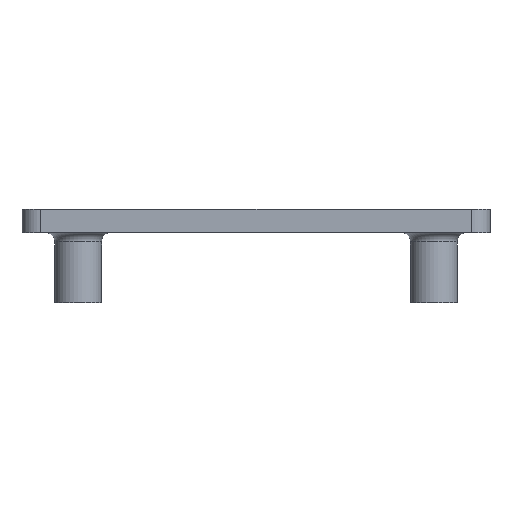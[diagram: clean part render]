
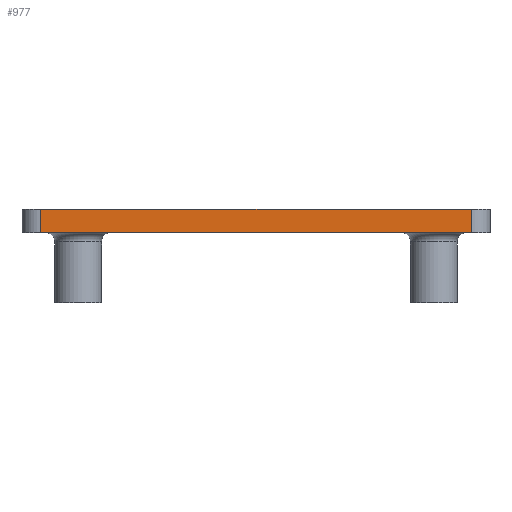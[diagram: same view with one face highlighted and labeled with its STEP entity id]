
A CAD part, front view. The second image highlights one B-rep face of the part: STEP entity #977.
In plain terms, the highlighted planar face has unit normal (0, -1, 0).
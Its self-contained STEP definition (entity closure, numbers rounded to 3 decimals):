
#22 = VERTEX_POINT('',#23);
#23 = CARTESIAN_POINT('',(-46.,-40.,15.));
#33 = PLANE('',#34);
#34 = AXIS2_PLACEMENT_3D('',#35,#36,#37);
#35 = CARTESIAN_POINT('',(0.,0.,15.));
#36 = DIRECTION('',(0.,0.,1.));
#37 = DIRECTION('',(1.,0.,-0.));
#49 = CYLINDRICAL_SURFACE('',#50,4.);
#50 = AXIS2_PLACEMENT_3D('',#51,#52,#53);
#51 = CARTESIAN_POINT('',(-46.,-36.,15.));
#52 = DIRECTION('',(0.,0.,1.));
#53 = DIRECTION('',(0.,-1.,0.));
#61 = EDGE_CURVE('',#22,#62,#64,.T.);
#62 = VERTEX_POINT('',#63);
#63 = CARTESIAN_POINT('',(46.,-40.,15.));
#64 = SURFACE_CURVE('',#65,(#69,#76),.PCURVE_S1.);
#65 = LINE('',#66,#67);
#66 = CARTESIAN_POINT('',(-50.,-40.,15.));
#67 = VECTOR('',#68,1.);
#68 = DIRECTION('',(1.,0.,0.));
#69 = PCURVE('',#33,#70);
#70 = DEFINITIONAL_REPRESENTATION('',(#71),#75);
#71 = LINE('',#72,#73);
#72 = CARTESIAN_POINT('',(-50.,-40.));
#73 = VECTOR('',#74,1.);
#74 = DIRECTION('',(1.,0.));
#75 = ( GEOMETRIC_REPRESENTATION_CONTEXT(2) 
PARAMETRIC_REPRESENTATION_CONTEXT() REPRESENTATION_CONTEXT('2D SPACE',''
  ) );
#76 = PCURVE('',#77,#82);
#77 = PLANE('',#78);
#78 = AXIS2_PLACEMENT_3D('',#79,#80,#81);
#79 = CARTESIAN_POINT('',(-50.,-40.,15.));
#80 = DIRECTION('',(0.,1.,0.));
#81 = DIRECTION('',(1.,0.,0.));
#82 = DEFINITIONAL_REPRESENTATION('',(#83),#87);
#83 = LINE('',#84,#85);
#84 = CARTESIAN_POINT('',(0.,0.));
#85 = VECTOR('',#86,1.);
#86 = DIRECTION('',(1.,0.));
#87 = ( GEOMETRIC_REPRESENTATION_CONTEXT(2) 
PARAMETRIC_REPRESENTATION_CONTEXT() REPRESENTATION_CONTEXT('2D SPACE',''
  ) );
#106 = CYLINDRICAL_SURFACE('',#107,4.);
#107 = AXIS2_PLACEMENT_3D('',#108,#109,#110);
#108 = CARTESIAN_POINT('',(46.,-36.,15.));
#109 = DIRECTION('',(0.,0.,1.));
#110 = DIRECTION('',(0.,-1.,0.));
#925 = VERTEX_POINT('',#926);
#926 = CARTESIAN_POINT('',(-46.,-40.,20.));
#941 = PLANE('',#942);
#942 = AXIS2_PLACEMENT_3D('',#943,#944,#945);
#943 = CARTESIAN_POINT('',(0.,0.,20.));
#944 = DIRECTION('',(0.,0.,1.));
#945 = DIRECTION('',(1.,0.,-0.));
#957 = EDGE_CURVE('',#22,#925,#958,.T.);
#958 = SURFACE_CURVE('',#959,(#963,#970),.PCURVE_S1.);
#959 = LINE('',#960,#961);
#960 = CARTESIAN_POINT('',(-46.,-40.,15.));
#961 = VECTOR('',#962,1.);
#962 = DIRECTION('',(0.,0.,1.));
#963 = PCURVE('',#49,#964);
#964 = DEFINITIONAL_REPRESENTATION('',(#965),#969);
#965 = LINE('',#966,#967);
#966 = CARTESIAN_POINT('',(-0.,0.));
#967 = VECTOR('',#968,1.);
#968 = DIRECTION('',(-0.,1.));
#969 = ( GEOMETRIC_REPRESENTATION_CONTEXT(2) 
PARAMETRIC_REPRESENTATION_CONTEXT() REPRESENTATION_CONTEXT('2D SPACE',''
  ) );
#970 = PCURVE('',#77,#971);
#971 = DEFINITIONAL_REPRESENTATION('',(#972),#976);
#972 = LINE('',#973,#974);
#973 = CARTESIAN_POINT('',(4.,0.));
#974 = VECTOR('',#975,1.);
#975 = DIRECTION('',(0.,-1.));
#976 = ( GEOMETRIC_REPRESENTATION_CONTEXT(2) 
PARAMETRIC_REPRESENTATION_CONTEXT() REPRESENTATION_CONTEXT('2D SPACE',''
  ) );
#977 = ADVANCED_FACE('',(#978),#77,.F.);
#978 = FACE_BOUND('',#979,.F.);
#979 = EDGE_LOOP('',(#980,#981,#982,#1005));
#980 = ORIENTED_EDGE('',*,*,#61,.F.);
#981 = ORIENTED_EDGE('',*,*,#957,.T.);
#982 = ORIENTED_EDGE('',*,*,#983,.T.);
#983 = EDGE_CURVE('',#925,#984,#986,.T.);
#984 = VERTEX_POINT('',#985);
#985 = CARTESIAN_POINT('',(46.,-40.,20.));
#986 = SURFACE_CURVE('',#987,(#991,#998),.PCURVE_S1.);
#987 = LINE('',#988,#989);
#988 = CARTESIAN_POINT('',(-50.,-40.,20.));
#989 = VECTOR('',#990,1.);
#990 = DIRECTION('',(1.,0.,0.));
#991 = PCURVE('',#77,#992);
#992 = DEFINITIONAL_REPRESENTATION('',(#993),#997);
#993 = LINE('',#994,#995);
#994 = CARTESIAN_POINT('',(0.,-5.));
#995 = VECTOR('',#996,1.);
#996 = DIRECTION('',(1.,0.));
#997 = ( GEOMETRIC_REPRESENTATION_CONTEXT(2) 
PARAMETRIC_REPRESENTATION_CONTEXT() REPRESENTATION_CONTEXT('2D SPACE',''
  ) );
#998 = PCURVE('',#941,#999);
#999 = DEFINITIONAL_REPRESENTATION('',(#1000),#1004);
#1000 = LINE('',#1001,#1002);
#1001 = CARTESIAN_POINT('',(-50.,-40.));
#1002 = VECTOR('',#1003,1.);
#1003 = DIRECTION('',(1.,0.));
#1004 = ( GEOMETRIC_REPRESENTATION_CONTEXT(2) 
PARAMETRIC_REPRESENTATION_CONTEXT() REPRESENTATION_CONTEXT('2D SPACE',''
  ) );
#1005 = ORIENTED_EDGE('',*,*,#1006,.F.);
#1006 = EDGE_CURVE('',#62,#984,#1007,.T.);
#1007 = SURFACE_CURVE('',#1008,(#1012,#1019),.PCURVE_S1.);
#1008 = LINE('',#1009,#1010);
#1009 = CARTESIAN_POINT('',(46.,-40.,15.));
#1010 = VECTOR('',#1011,1.);
#1011 = DIRECTION('',(0.,0.,1.));
#1012 = PCURVE('',#77,#1013);
#1013 = DEFINITIONAL_REPRESENTATION('',(#1014),#1018);
#1014 = LINE('',#1015,#1016);
#1015 = CARTESIAN_POINT('',(96.,0.));
#1016 = VECTOR('',#1017,1.);
#1017 = DIRECTION('',(0.,-1.));
#1018 = ( GEOMETRIC_REPRESENTATION_CONTEXT(2) 
PARAMETRIC_REPRESENTATION_CONTEXT() REPRESENTATION_CONTEXT('2D SPACE',''
  ) );
#1019 = PCURVE('',#106,#1020);
#1020 = DEFINITIONAL_REPRESENTATION('',(#1021),#1025);
#1021 = LINE('',#1022,#1023);
#1022 = CARTESIAN_POINT('',(0.,0.));
#1023 = VECTOR('',#1024,1.);
#1024 = DIRECTION('',(0.,1.));
#1025 = ( GEOMETRIC_REPRESENTATION_CONTEXT(2) 
PARAMETRIC_REPRESENTATION_CONTEXT() REPRESENTATION_CONTEXT('2D SPACE',''
  ) );
